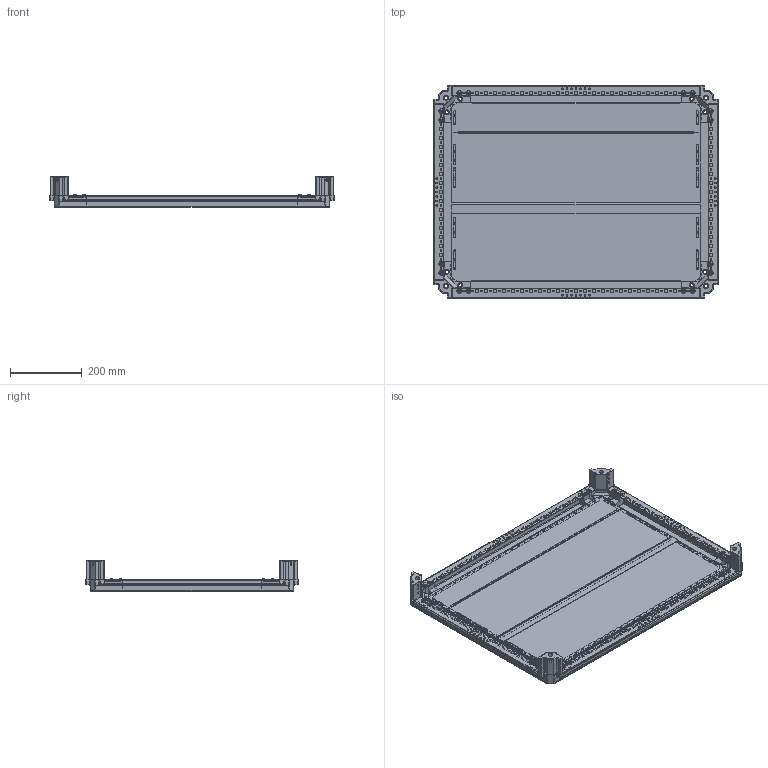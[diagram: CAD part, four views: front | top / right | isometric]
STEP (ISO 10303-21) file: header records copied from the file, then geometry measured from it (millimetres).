
FILE_DESCRIPTION(('STEP AP203'), '1');
FILE_NAME('Êðûøà è îñíîâàíèå Ø600õÃ800 ìì IP55 OptiBox M 419599 ÊÝÀÇ', '', ('UNSPECIFIED'), ('UNSPECIFIED'), 'C3D Converter', 'C3D Toolkit', '');
FILE_SCHEMA(('CONFIG_CONTROL_DESIGN'));
Length unit declared in the file: millimetre
Bounding box: 792 x 592 x 85 mm (x, y, z)
Volume: 2011758.6 mm3; surface area: 1657373.4 mm2
Topology: 27 solids, 27 shells, 2362 faces, 6236 edges, 3948 vertices
Faces by surface type: plane 1184, cylinder 930, cone 208, sphere 24, bspline 16
Full cylindrical faces by diameter (mm): 4.6 x176, 5 x60, 5.6 x16, 6 x40, 7 x4, 7.3 x16, 9 x16, 10.2 x4, 13 x20, 14 x8
Entity records: 80160 total; most frequent: CARTESIAN_POINT 21211, DIRECTION 11942, ORIENTED_EDGE 11496, EDGE_CURVE 5748, AXIS2_PLACEMENT_3D 4131, VERTEX_POINT 3948, LINE 3680, VECTOR 3680
